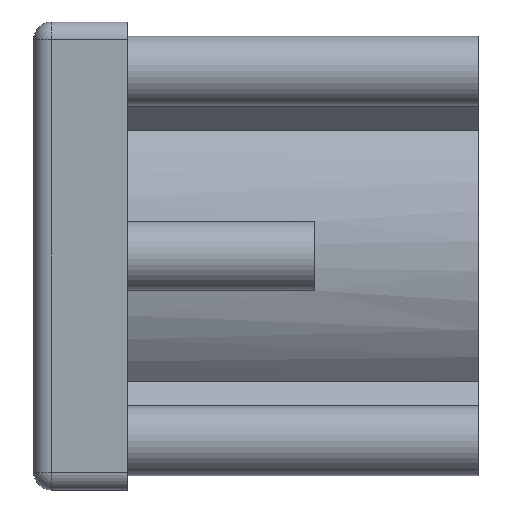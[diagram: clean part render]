
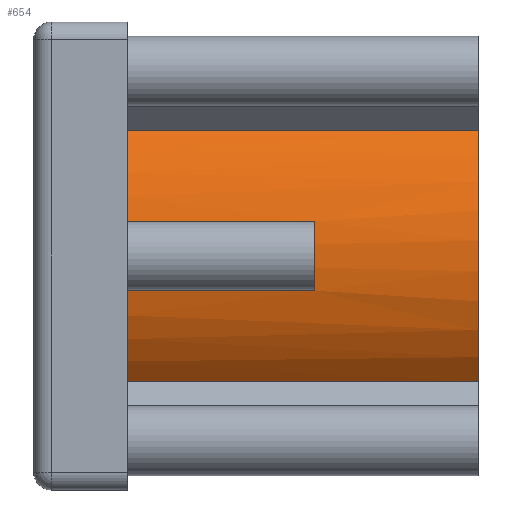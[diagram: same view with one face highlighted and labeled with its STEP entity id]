
A CAD part, left-side view. The second image highlights one B-rep face of the part: STEP entity #654.
In plain terms, the highlighted cylindrical face has radius 16.5 mm (diameter 33 mm), a partial arc.
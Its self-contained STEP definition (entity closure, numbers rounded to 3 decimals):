
#37 = CARTESIAN_POINT ( 'NONE',  ( -16.231, -8., 2.969 ) ) ;
#47 = EDGE_CURVE ( 'NONE', #2019, #1408, #1980, .T. ) ;
#95 = CARTESIAN_POINT ( 'NONE',  ( -16.231, -24., 2.969 ) ) ;
#147 = DIRECTION ( 'NONE',  ( 0., 0., 1. ) ) ;
#183 = DIRECTION ( 'NONE',  ( 0., 1., 0. ) ) ;
#251 = ORIENTED_EDGE ( 'NONE', *, *, #1140, .T. ) ;
#271 = CIRCLE ( 'NONE', #1440, 16.5 ) ;
#277 = VERTEX_POINT ( 'NONE', #955 ) ;
#364 = LINE ( 'NONE', #651, #1897 ) ;
#375 = DIRECTION ( 'NONE',  ( 0., 1., 0. ) ) ;
#408 = DIRECTION ( 'NONE',  ( 0., -1., 0. ) ) ;
#440 = ORIENTED_EDGE ( 'NONE', *, *, #1471, .F. ) ;
#455 = CARTESIAN_POINT ( 'NONE',  ( 0., -8., 0. ) ) ;
#485 = FACE_OUTER_BOUND ( 'NONE', #1206, .T. ) ;
#493 = CYLINDRICAL_SURFACE ( 'NONE', #745, 16.5 ) ;
#511 = VERTEX_POINT ( 'NONE', #95 ) ;
#530 = CARTESIAN_POINT ( 'NONE',  ( 0., -38., 0. ) ) ;
#551 = CARTESIAN_POINT ( 'NONE',  ( -16.231, -8., -2.969 ) ) ;
#621 = CARTESIAN_POINT ( 'NONE',  ( -12.518, -38., 10.75 ) ) ;
#649 = CARTESIAN_POINT ( 'NONE',  ( -12.518, -8., 10.75 ) ) ;
#651 = CARTESIAN_POINT ( 'NONE',  ( -16.231, -23., 2.969 ) ) ;
#654 = ADVANCED_FACE ( 'NONE', ( #485 ), #493, .T. ) ;
#669 = VERTEX_POINT ( 'NONE', #649 ) ;
#692 = DIRECTION ( 'NONE',  ( 0., -1., 0. ) ) ;
#694 = ORIENTED_EDGE ( 'NONE', *, *, #1672, .T. ) ;
#715 = LINE ( 'NONE', #1495, #1825 ) ;
#734 = CARTESIAN_POINT ( 'NONE',  ( -12.518, -8., -10.75 ) ) ;
#745 = AXIS2_PLACEMENT_3D ( 'NONE', #1414, #1578, #147 ) ;
#754 = VERTEX_POINT ( 'NONE', #37 ) ;
#762 = ORIENTED_EDGE ( 'NONE', *, *, #1162, .T. ) ;
#833 = DIRECTION ( 'NONE',  ( 0., 0., -1. ) ) ;
#834 = AXIS2_PLACEMENT_3D ( 'NONE', #853, #692, #833 ) ;
#853 = CARTESIAN_POINT ( 'NONE',  ( 0., -24., 0. ) ) ;
#879 = VECTOR ( 'NONE', #1544, 1000. ) ;
#955 = CARTESIAN_POINT ( 'NONE',  ( -16.231, -24., -2.969 ) ) ;
#1040 = VERTEX_POINT ( 'NONE', #621 ) ;
#1082 = CARTESIAN_POINT ( 'NONE',  ( -12.518, 3.385, 10.75 ) ) ;
#1112 = AXIS2_PLACEMENT_3D ( 'NONE', #1264, #1404, #1255 ) ;
#1140 = EDGE_CURVE ( 'NONE', #1509, #1040, #1338, .T. ) ;
#1162 = EDGE_CURVE ( 'NONE', #511, #277, #1922, .T. ) ;
#1186 = CARTESIAN_POINT ( 'NONE',  ( -16.231, -23., -2.969 ) ) ;
#1206 = EDGE_LOOP ( 'NONE', ( #694, #762, #1785, #1501, #1219, #251, #1810, #440 ) ) ;
#1219 = ORIENTED_EDGE ( 'NONE', *, *, #1325, .T. ) ;
#1255 = DIRECTION ( 'NONE',  ( 0., 0., 1. ) ) ;
#1264 = CARTESIAN_POINT ( 'NONE',  ( 0., -8., 0. ) ) ;
#1325 = EDGE_CURVE ( 'NONE', #2019, #1509, #715, .T. ) ;
#1338 = CIRCLE ( 'NONE', #2022, 16.5 ) ;
#1362 = LINE ( 'NONE', #1082, #879 ) ;
#1402 = EDGE_CURVE ( 'NONE', #277, #1408, #1542, .T. ) ;
#1404 = DIRECTION ( 'NONE',  ( 0., 1., 0. ) ) ;
#1408 = VERTEX_POINT ( 'NONE', #551 ) ;
#1414 = CARTESIAN_POINT ( 'NONE',  ( 0., 0., 0. ) ) ;
#1440 = AXIS2_PLACEMENT_3D ( 'NONE', #455, #2010, #1738 ) ;
#1453 = DIRECTION ( 'NONE',  ( 0., -1., 0. ) ) ;
#1471 = EDGE_CURVE ( 'NONE', #754, #669, #271, .T. ) ;
#1495 = CARTESIAN_POINT ( 'NONE',  ( -12.518, 3.385, -10.75 ) ) ;
#1501 = ORIENTED_EDGE ( 'NONE', *, *, #47, .F. ) ;
#1509 = VERTEX_POINT ( 'NONE', #1858 ) ;
#1542 = LINE ( 'NONE', #1186, #1733 ) ;
#1544 = DIRECTION ( 'NONE',  ( 0., -1., 0. ) ) ;
#1578 = DIRECTION ( 'NONE',  ( 0., 1., 0. ) ) ;
#1672 = EDGE_CURVE ( 'NONE', #754, #511, #364, .T. ) ;
#1733 = VECTOR ( 'NONE', #375, 1000. ) ;
#1738 = DIRECTION ( 'NONE',  ( 0., 0., 1. ) ) ;
#1756 = DIRECTION ( 'NONE',  ( 0., 0., 1. ) ) ;
#1785 = ORIENTED_EDGE ( 'NONE', *, *, #1402, .T. ) ;
#1810 = ORIENTED_EDGE ( 'NONE', *, *, #1999, .F. ) ;
#1825 = VECTOR ( 'NONE', #408, 1000. ) ;
#1858 = CARTESIAN_POINT ( 'NONE',  ( -12.518, -38., -10.75 ) ) ;
#1897 = VECTOR ( 'NONE', #1453, 1000. ) ;
#1922 = CIRCLE ( 'NONE', #834, 16.5 ) ;
#1980 = CIRCLE ( 'NONE', #1112, 16.5 ) ;
#1999 = EDGE_CURVE ( 'NONE', #669, #1040, #1362, .T. ) ;
#2010 = DIRECTION ( 'NONE',  ( 0., 1., 0. ) ) ;
#2019 = VERTEX_POINT ( 'NONE', #734 ) ;
#2022 = AXIS2_PLACEMENT_3D ( 'NONE', #530, #183, #1756 ) ;
